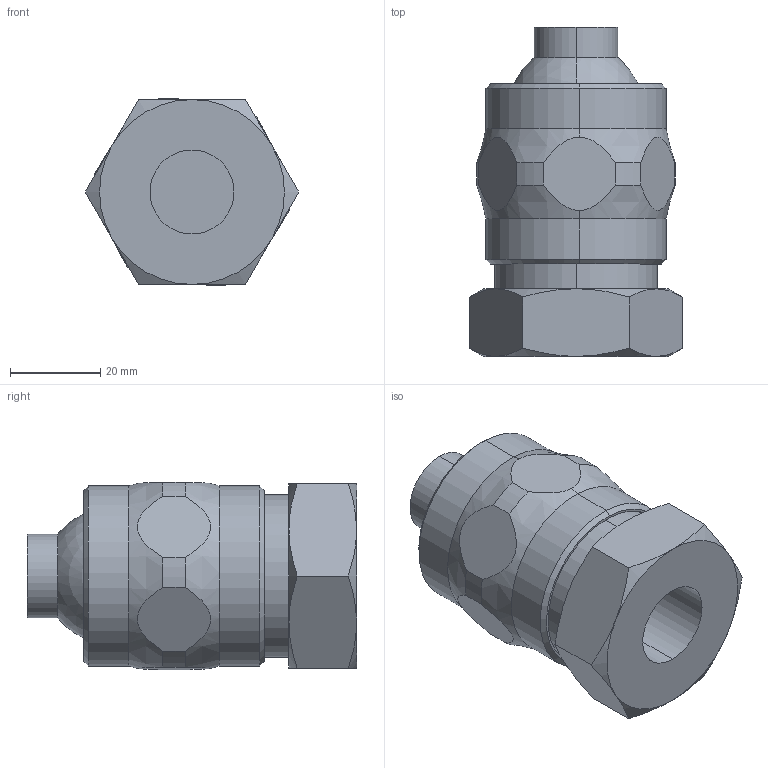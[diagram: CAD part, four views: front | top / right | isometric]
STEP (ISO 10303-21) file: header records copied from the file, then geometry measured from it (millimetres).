
FILE_DESCRIPTION (( 'STEP AP214' ), '1' );
FILE_NAME ('Silvent 707LA.STEP', '2012-09-06T10:28:23', ( 'silvpesv' ), ( '' ), 'SwSTEP 2.0', 'SolidWorks 2011', '' );
FILE_SCHEMA (( 'AUTOMOTIVE_DESIGN' ));
Length unit declared in the file: millimetre
Products named in the file (1): Silvent 707LA
Bounding box: 47.34 x 73 x 41.56 mm (x, y, z)
Volume: 66291.9 mm3; surface area: 24689.4 mm2
Topology: 3 solids, 3 shells, 72 faces, 165 edges, 101 vertices
Faces by surface type: cylinder 26, cone 22, plane 22, sphere 2
Entity records: 3296 total; most frequent: CARTESIAN_POINT 867, DIRECTION 338, ORIENTED_EDGE 320, EDGE_CURVE 160, AXIS2_PLACEMENT_3D 145, VERTEX_POINT 98, EDGE_LOOP 80, UNCERTAINTY_MEASURE_WITH_UNIT 77
